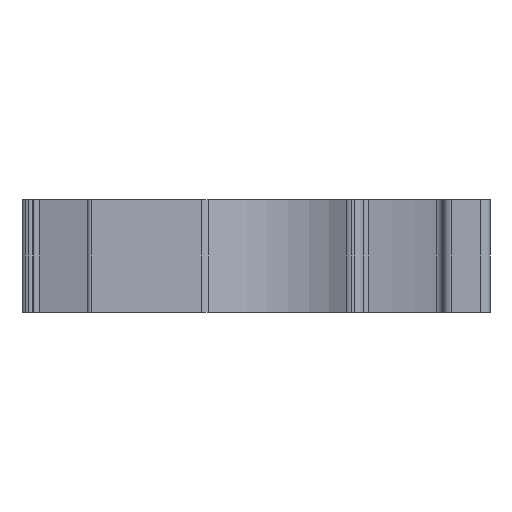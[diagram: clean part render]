
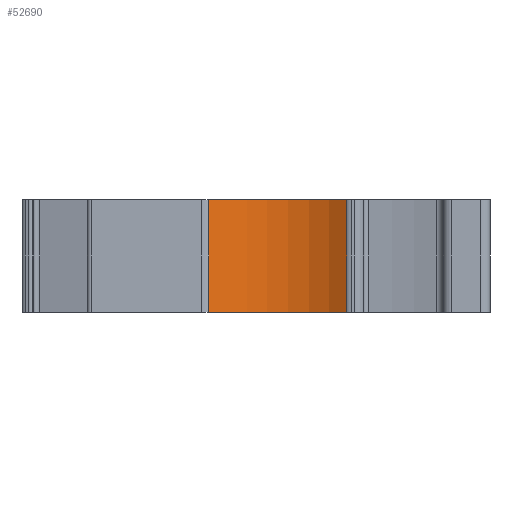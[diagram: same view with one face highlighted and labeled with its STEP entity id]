
A CAD part, left-side view. The second image highlights one B-rep face of the part: STEP entity #52690.
In plain terms, the highlighted cylindrical face has radius 13.2 mm (diameter 26.4 mm), a partial arc.
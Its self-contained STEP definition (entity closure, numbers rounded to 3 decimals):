
#1090=CARTESIAN_POINT('',(-42.373,8.65,-323.575));
#1100=VERTEX_POINT('',#1090);
#1130=CARTESIAN_POINT('',(-42.373,8.65,-311.5));
#1140=DIRECTION('',(0.,0.,-1.));
#1150=VECTOR('',#1140,1.);
#1160=LINE('',#1130,#1150);
#1170=CARTESIAN_POINT('',(-42.373,8.65,-311.425));
#1180=VERTEX_POINT('',#1170);
#1190=EDGE_CURVE('',#1180,#1100,#1160,.T.);
#18780=CARTESIAN_POINT('',(-42.293,23.533,-311.425))
;
#18790=VERTEX_POINT('',#18780);
#18840=CARTESIAN_POINT('',(-42.293,23.533,-323.5));
#18850=DIRECTION('',(0.,0.,-1.));
#18860=VECTOR('',#18850,1.);
#18870=LINE('',#18840,#18860);
#18880=CARTESIAN_POINT('',(-42.293,23.533,-323.575))
;
#18890=VERTEX_POINT('',#18880);
#18900=EDGE_CURVE('',#18790,#18890,#18870,.T.);
#31130=CARTESIAN_POINT('',(-53.235,16.15,-311.425))
;
#31140=DIRECTION('',(0.,0.,1.));
#31150=DIRECTION('',(1.,0.,0.));
#31160=AXIS2_PLACEMENT_3D('',#31130,#31140,#31150);
#31170=CIRCLE('',#31160,13.2);
#31180=EDGE_CURVE('',#1180,#18790,#31170,.T.);
#51520=CARTESIAN_POINT('',(-53.235,16.15,-323.575))
;
#51530=DIRECTION('',(0.,0.,1.));
#51540=DIRECTION('',(1.,0.,0.));
#51550=AXIS2_PLACEMENT_3D('',#51520,#51530,#51540);
#51560=CIRCLE('',#51550,13.2);
#51570=EDGE_CURVE('',#1100,#18890,#51560,.T.);
#52580=CARTESIAN_POINT('',(-53.235,16.15,-311.5));
#52590=DIRECTION('',(0.,0.,1.));
#52600=DIRECTION('',(1.,0.,0.));
#52610=AXIS2_PLACEMENT_3D('',#52580,#52590,#52600);
#52620=CYLINDRICAL_SURFACE('',#52610,13.2);
#52630=ORIENTED_EDGE('',*,*,#51570,.F.);
#52640=ORIENTED_EDGE('',*,*,#18900,.T.);
#52650=ORIENTED_EDGE('',*,*,#31180,.T.);
#52660=ORIENTED_EDGE('',*,*,#1190,.F.);
#52670=EDGE_LOOP('',(#52660,#52650,#52640,#52630));
#52680=FACE_OUTER_BOUND('',#52670,.T.);
#52690=ADVANCED_FACE('',(#52680),#52620,.F.);
